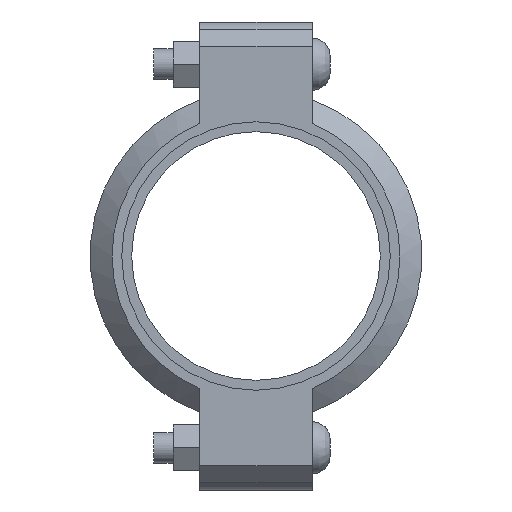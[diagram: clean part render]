
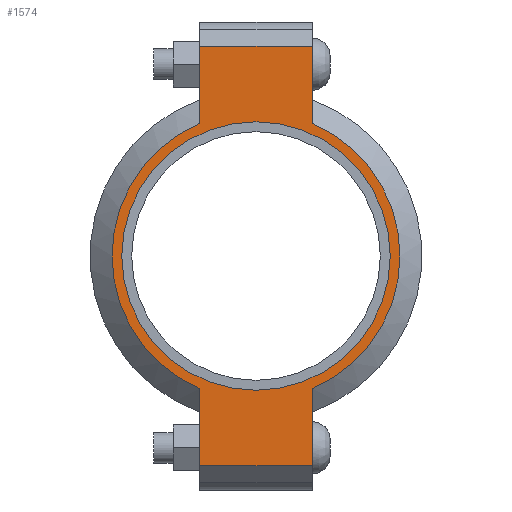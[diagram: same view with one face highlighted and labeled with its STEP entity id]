
A CAD part, left-side view. The second image highlights one B-rep face of the part: STEP entity #1574.
In plain terms, the highlighted planar face has unit normal (-1, 0, 0) as drawn and (0, 0, 1) by its records, which use the part's own axes.
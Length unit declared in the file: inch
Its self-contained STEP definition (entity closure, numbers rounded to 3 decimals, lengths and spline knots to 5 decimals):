
#198=LINE('',#2756,#291);
#206=LINE('',#2792,#299);
#213=LINE('',#2813,#306);
#222=LINE('',#2845,#315);
#223=LINE('',#2849,#316);
#224=LINE('',#2851,#317);
#291=VECTOR('',#2244,0.3937);
#299=VECTOR('',#2260,0.3937);
#306=VECTOR('',#2279,0.3937);
#315=VECTOR('',#2304,0.3937);
#316=VECTOR('',#2309,0.3937);
#317=VECTOR('',#2310,0.3937);
#373=FACE_BOUND('',#551,.T.);
#445=FACE_OUTER_BOUND('',#550,.T.);
#550=EDGE_LOOP('',(#1315,#1316,#1317,#1318,#1319,#1320,#1321,#1322));
#551=EDGE_LOOP('',(#1323));
#623=CIRCLE('',#1802,2.75);
#649=CIRCLE('',#1861,2.95);
#650=CIRCLE('',#1862,2.95);
#715=VERTEX_POINT('',#2572);
#758=VERTEX_POINT('',#2753);
#759=VERTEX_POINT('',#2755);
#770=VERTEX_POINT('',#2787);
#771=VERTEX_POINT('',#2791);
#778=VERTEX_POINT('',#2810);
#779=VERTEX_POINT('',#2812);
#789=VERTEX_POINT('',#2848);
#790=VERTEX_POINT('',#2850);
#871=EDGE_CURVE('',#715,#715,#623,.T.);
#932=EDGE_CURVE('',#759,#758,#198,.T.);
#946=EDGE_CURVE('',#771,#770,#206,.T.);
#956=EDGE_CURVE('',#779,#778,#213,.T.);
#971=EDGE_CURVE('',#771,#758,#222,.T.);
#972=EDGE_CURVE('',#770,#779,#649,.T.);
#973=EDGE_CURVE('',#789,#778,#223,.T.);
#974=EDGE_CURVE('',#789,#790,#224,.T.);
#975=EDGE_CURVE('',#790,#759,#650,.T.);
#1315=ORIENTED_EDGE('',*,*,#971,.F.);
#1316=ORIENTED_EDGE('',*,*,#946,.T.);
#1317=ORIENTED_EDGE('',*,*,#972,.T.);
#1318=ORIENTED_EDGE('',*,*,#956,.T.);
#1319=ORIENTED_EDGE('',*,*,#973,.F.);
#1320=ORIENTED_EDGE('',*,*,#974,.T.);
#1321=ORIENTED_EDGE('',*,*,#975,.T.);
#1322=ORIENTED_EDGE('',*,*,#932,.T.);
#1323=ORIENTED_EDGE('',*,*,#871,.T.);
#1416=PLANE('',#1860);
#1574=ADVANCED_FACE('',(#445,#373),#1416,.T.);
#1802=AXIS2_PLACEMENT_3D('',#2574,#2120,#2121);
#1860=AXIS2_PLACEMENT_3D('',#2846,#2305,#2306);
#1861=AXIS2_PLACEMENT_3D('',#2847,#2307,#2308);
#1862=AXIS2_PLACEMENT_3D('',#2852,#2311,#2312);
#2120=DIRECTION('center_axis',(0.,0.,-1.));
#2121=DIRECTION('ref_axis',(1.,0.,0.));
#2244=DIRECTION('',(1.,0.,0.));
#2260=DIRECTION('',(-1.,0.,0.));
#2279=DIRECTION('',(-1.,0.,0.));
#2304=DIRECTION('',(0.,-1.,0.));
#2305=DIRECTION('center_axis',(0.,0.,1.));
#2306=DIRECTION('ref_axis',(-1.,0.,0.));
#2307=DIRECTION('center_axis',(0.,0.,1.));
#2308=DIRECTION('ref_axis',(1.,0.,0.));
#2309=DIRECTION('',(0.,1.,0.));
#2310=DIRECTION('',(1.,0.,0.));
#2311=DIRECTION('center_axis',(0.,0.,1.));
#2312=DIRECTION('ref_axis',(1.,0.,0.));
#2572=CARTESIAN_POINT('',(-2.75,0.,1.065));
#2574=CARTESIAN_POINT('Origin',(0.,0.,1.065));
#2753=CARTESIAN_POINT('',(4.295,-1.15,1.065));
#2755=CARTESIAN_POINT('',(2.71662,-1.15,1.065));
#2756=CARTESIAN_POINT('',(4.795,-1.15,1.065));
#2787=CARTESIAN_POINT('',(2.71662,1.15,1.065));
#2791=CARTESIAN_POINT('',(4.295,1.15,1.065));
#2792=CARTESIAN_POINT('',(-4.795,1.15,1.065));
#2810=CARTESIAN_POINT('',(-4.295,1.15,1.065));
#2812=CARTESIAN_POINT('',(-2.71662,1.15,1.065));
#2813=CARTESIAN_POINT('',(-4.795,1.15,1.065));
#2845=CARTESIAN_POINT('',(4.295,-0.575,1.065));
#2846=CARTESIAN_POINT('Origin',(0.,0.,
1.065));
#2847=CARTESIAN_POINT('Origin',(0.,0.,1.065));
#2848=CARTESIAN_POINT('',(-4.295,-1.15,1.065));
#2849=CARTESIAN_POINT('',(-4.295,0.575,1.065));
#2850=CARTESIAN_POINT('',(-2.71662,-1.15,1.065));
#2851=CARTESIAN_POINT('',(4.795,-1.15,1.065));
#2852=CARTESIAN_POINT('Origin',(0.,0.,1.065));
